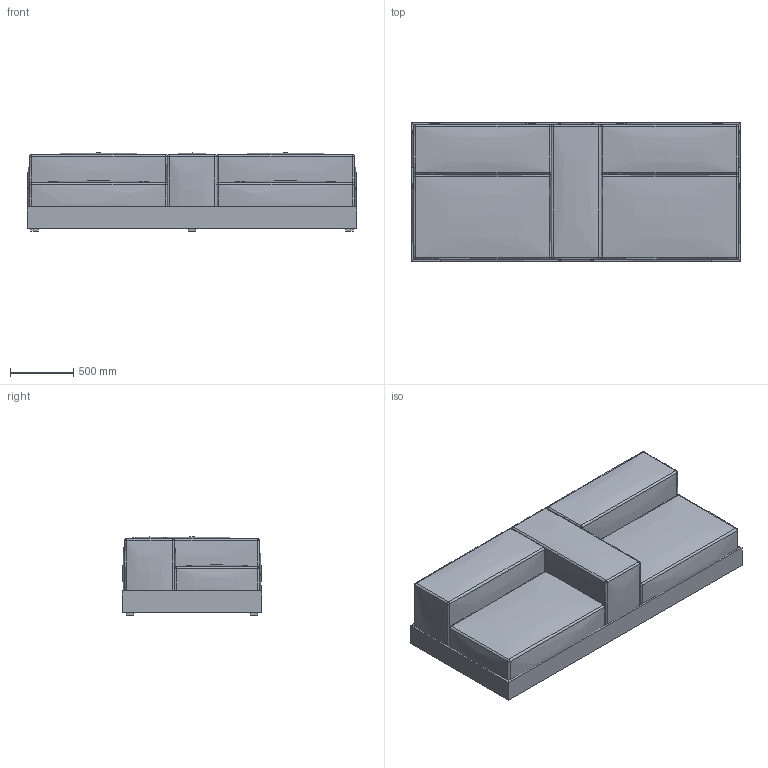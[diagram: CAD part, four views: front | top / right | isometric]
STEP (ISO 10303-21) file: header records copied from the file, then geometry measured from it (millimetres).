
FILE_DESCRIPTION(/* description */ (''),/* implementation_level */ '2;1');
FILE_NAME(/* name */ 'Polp1 260 blc.step',/* time_stamp */ '2024-01-07T10:11:42+01:00',/* author */ (''),/* organization */ (''),/* preprocessor_version */ 'ST-DEVELOPER v20',/* originating_system */ 'Autodesk Translation Framework v12.14.0.127',/* authorisation */ '');
FILE_SCHEMA (('AUTOMOTIVE_DESIGN { 1 0 10303 214 3 1 1 }'));
Length unit declared in the file: millimetre
Products named in the file (6): Polp1 260 blc; Component1; Component2; Component5; Component9; Component10
Assembly tree (5 placements, depth 2):
  Polp1 260 blc
    Component1
    Component2
    Component5
    Component9
    Component10
Bounding box: 2600 x 1100 x 615 mm (x, y, z)
Volume: 1287638666 mm3; surface area: 21035746.4 mm2
Topology: 21 solids, 21 shells, 226 faces, 432 edges, 248 vertices
Faces by surface type: plane 107, bspline 71, sphere 40, cylinder 8
Entity records: 13862 total; most frequent: CARTESIAN_POINT 9497, ORIENTED_EDGE 864, DIRECTION 780, EDGE_CURVE 432, AXIS2_PLACEMENT_3D 286, VERTEX_POINT 248, FACE_OUTER_BOUND 226, EDGE_LOOP 226
